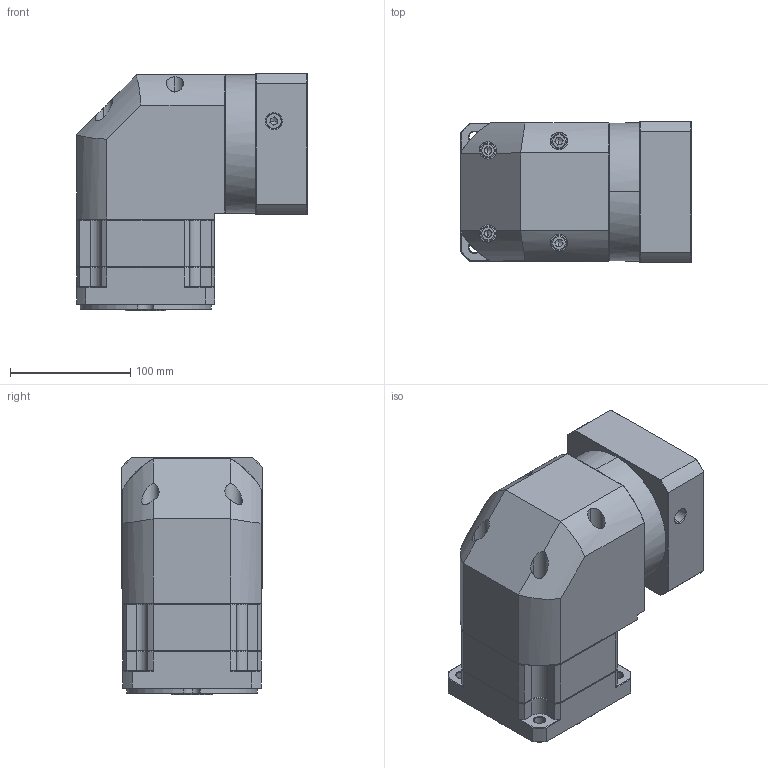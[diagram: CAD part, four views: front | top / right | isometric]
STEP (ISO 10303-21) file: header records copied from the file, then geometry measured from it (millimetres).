
FILE_DESCRIPTION (( 'STEP AP214' ), '1' );
FILE_NAME ('ZBR115A-K25-L1-P2-24-95-130-M8.step', '2023-08-26T12:43:09', ( '' ), ( '' ), 'SwSTEP 2.0', 'SolidWorks 2016', '' );
FILE_SCHEMA (( 'AUTOMOTIVE_DESIGN' ));
Length unit declared in the file: millimetre
Products named in the file (1): ZBR115A-K25-L1-P2-24-95-130-M8
Bounding box: 192.4 x 118 x 198 mm (x, y, z)
Volume: 2913884.7 mm3; surface area: 244037.6 mm2
Topology: 6 solids, 6 shells, 2324 faces, 6098 edges, 3878 vertices
Faces by surface type: plane 1132, bspline 415, cylinder 406, cone 363, torus 8
Entity records: 122699 total; most frequent: CARTESIAN_POINT 43239, ORIENTED_EDGE 12140, DIRECTION 9615, EDGE_CURVE 6070, VECTOR 3939, LINE 3939, VERTEX_POINT 3878, AXIS2_PLACEMENT_3D 2838
